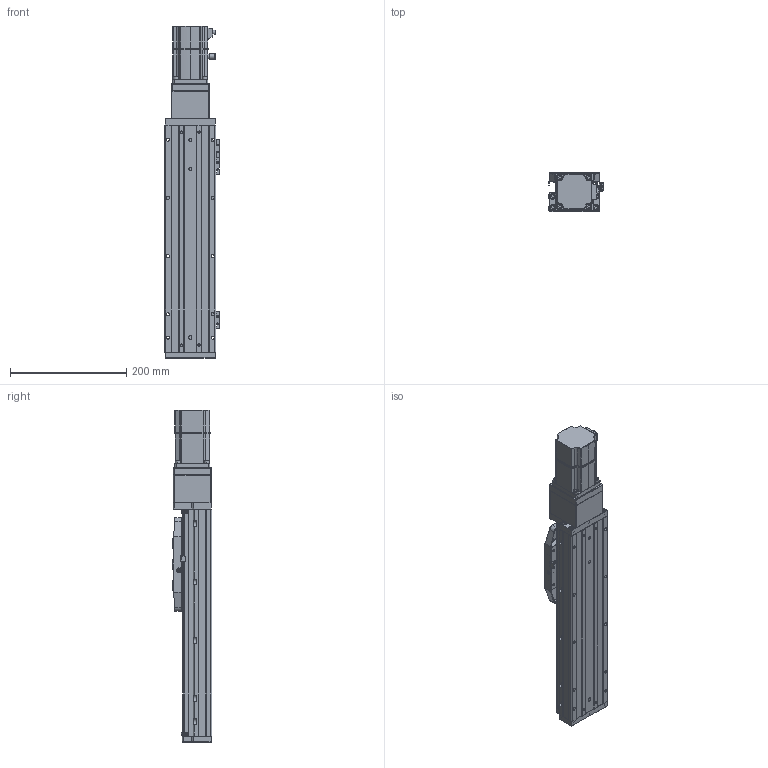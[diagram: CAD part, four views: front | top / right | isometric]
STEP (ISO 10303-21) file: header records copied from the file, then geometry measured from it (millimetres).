
FILE_DESCRIPTION (( 'STEP AP203' ), '1' );
FILE_NAME ('CTHA86-200-BC-M20-C4L.step', '2022-04-26T00:46:12', ( '微软用户' ), ( '微软中国' ), 'SwSTEP 2.0', 'SolidWorks 2020', '' );
FILE_SCHEMA (( 'CONFIG_CONTROL_DESIGN' ));
Length unit declared in the file: millimetre
Products named in the file (22): CTHA86-200-BC-M20-C4L; KTHA86-004; GBT 70.1-M3×20; CTHA86-006-1_CTHA86-006-2; KTHA86-005; GBT70.1 M5℅16; _X2_4E0983F1_X0_200W_1; GB¨uT 70.2-M3¡Á5_M3¡Á6; GBT 70.1-M3×16; GBT 70.3-M3℅6; EE_SX911P_R; GBT 70.1-M3℅6; CTHA86-002; CTHA60-017; CTHA60-016; CTHA86-031; CTHA60-021; CTHA86-013; CTHA86-030; KTHA86-001_390; GBT77-2000 M3×3; CTHA86-027
Assembly tree (65 placements, depth 2):
  CTHA86-200-BC-M20-C4L
    KTHA86-001_390
    KTHA86-004
    KTHA86-005
    GB¨uT 70.2-M3¡Á5_M3¡Á6  x10
    EE_SX911P_R  x3
    CTHA60-017  x3
    CTHA60-021  x2
    GBT77-2000 M3×3  x6
    GBT 70.1-M3×20
    GBT70.1 M5℅16  x14
    GBT 70.1-M3×16
    GBT 70.1-M3℅6  x6
    CTHA60-016  x2
    CTHA86-013
    CTHA86-027
    CTHA86-006-1_CTHA86-006-2
    _X2_4E0983F1_X0_200W_1
    GBT 70.3-M3℅6  x6
    CTHA86-002
    CTHA86-031
    CTHA86-030  x2
Bounding box: 93.82 x 68 x 570.5 mm (x, y, z)
Volume: 2035330.1 mm3; surface area: 385788.2 mm2
Topology: 67 solids, 67 shells, 2654 faces, 6303 edges, 3868 vertices
Faces by surface type: plane 1380, cylinder 679, cone 382, torus 120, bspline 69, sphere 24
Entity records: 45691 total; most frequent: CARTESIAN_POINT 8512, DIRECTION 7158, ORIENTED_EDGE 6862, EDGE_CURVE 3431, AXIS2_PLACEMENT_3D 2450, VECTOR 2258, LINE 2258, VERTEX_POINT 2146
